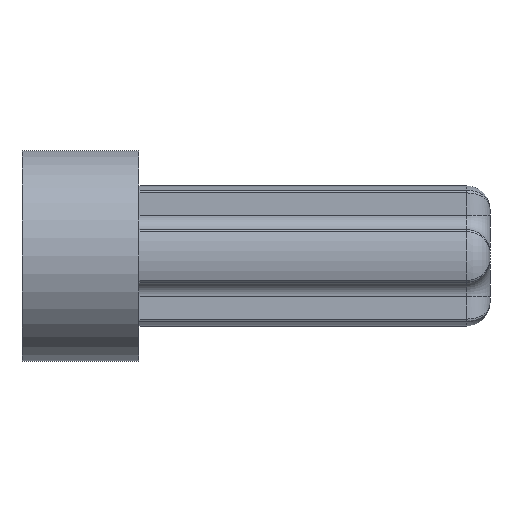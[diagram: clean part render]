
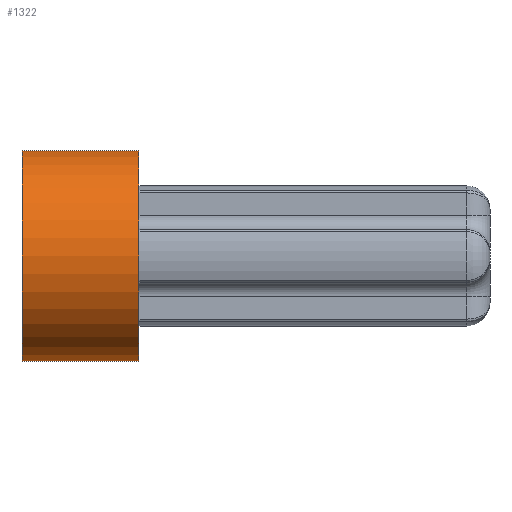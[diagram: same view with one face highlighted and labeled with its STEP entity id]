
A CAD part, left-side view. The second image highlights one B-rep face of the part: STEP entity #1322.
In plain terms, the highlighted cylindrical face has radius 3.6 mm (diameter 7.2 mm), a partial arc.
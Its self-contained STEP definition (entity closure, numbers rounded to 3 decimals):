
#119=CIRCLE('',#1471,3.6);
#121=CIRCLE('',#1476,3.6);
#163=CYLINDRICAL_SURFACE('',#1475,3.6);
#443=ORIENTED_EDGE('',*,*,#716,.F.);
#444=ORIENTED_EDGE('',*,*,#722,.F.);
#445=ORIENTED_EDGE('',*,*,#723,.T.);
#446=ORIENTED_EDGE('',*,*,#724,.T.);
#716=EDGE_CURVE('',#865,#866,#119,.T.);
#722=EDGE_CURVE('',#869,#865,#956,.T.);
#723=EDGE_CURVE('',#869,#870,#121,.T.);
#724=EDGE_CURVE('',#870,#866,#957,.T.);
#865=VERTEX_POINT('',#2389);
#866=VERTEX_POINT('',#2391);
#869=VERTEX_POINT('',#2401);
#870=VERTEX_POINT('',#2405);
#956=LINE('',#2402,#1052);
#957=LINE('',#2406,#1053);
#1052=VECTOR('',#1808,1000.);
#1053=VECTOR('',#1813,1000.);
#1140=EDGE_LOOP('',(#443,#444,#445,#446));
#1221=FACE_BOUND('',#1140,.T.);
#1322=ADVANCED_FACE('',(#1221),#163,.T.);
#1471=AXIS2_PLACEMENT_3D('',#2390,#1796,#1797);
#1475=AXIS2_PLACEMENT_3D('',#2403,#1809,#1810);
#1476=AXIS2_PLACEMENT_3D('',#2404,#1811,#1812);
#1796=DIRECTION('',(0.,-1.,0.));
#1797=DIRECTION('',(0.,0.,1.));
#1808=DIRECTION('',(0.,-1.,0.));
#1809=DIRECTION('',(0.,-1.,0.));
#1810=DIRECTION('',(0.,0.,-1.));
#1811=DIRECTION('',(0.,-1.,0.));
#1812=DIRECTION('',(0.,0.,1.));
#1813=DIRECTION('',(0.,-1.,0.));
#2389=CARTESIAN_POINT('',(0.,12.,3.6));
#2390=CARTESIAN_POINT('',(0.,12.,0.));
#2391=CARTESIAN_POINT('',(0.,12.,-3.6));
#2401=CARTESIAN_POINT('',(0.,16.,3.6));
#2402=CARTESIAN_POINT('',(0.,16.,3.6));
#2403=CARTESIAN_POINT('',(0.,16.,0.));
#2404=CARTESIAN_POINT('',(0.,16.,0.));
#2405=CARTESIAN_POINT('',(0.,16.,-3.6));
#2406=CARTESIAN_POINT('',(0.,16.,-3.6));
